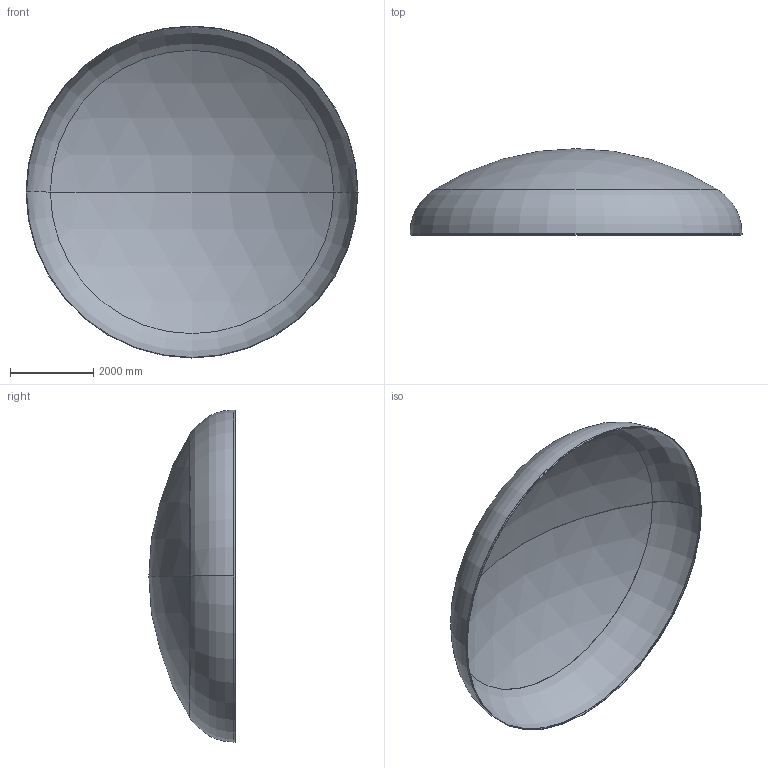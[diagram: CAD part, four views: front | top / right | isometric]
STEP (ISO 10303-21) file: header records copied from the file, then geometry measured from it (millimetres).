
FILE_DESCRIPTION (( 'STEP AP203' ), '1' );
FILE_NAME ('DIN 28013 Korbbogenform_-_Boden DIN 28013 - 8000 x 40 - I - s=12.step', '2016-07-04T10:58:26', ( '' ), ( '' ), 'SwSTEP 2.0', 'SolidWorks 2013', '' );
FILE_SCHEMA (( 'CONFIG_CONTROL_DESIGN' ));
Length unit declared in the file: millimetre
Products named in the file (1): DIN 28013 Korbbogenform_-_Boden DIN 28013 - 8000 x 40 - I - s=12
Bounding box: 8000 x 2079.09 x 8000 mm (x, y, z)
Volume: 845617826.2 mm3; surface area: 141237687.8 mm2
Topology: 1 solids, 1 shells, 13 faces, 24 edges, 14 vertices
Faces by surface type: torus 4, cylinder 4, sphere 4, plane 1
Entity records: 407 total; most frequent: DIRECTION 72, CARTESIAN_POINT 52, ORIENTED_EDGE 48, AXIS2_PLACEMENT_3D 34, EDGE_CURVE 24, CIRCLE 20, VERTEX_POINT 14, EDGE_LOOP 14
